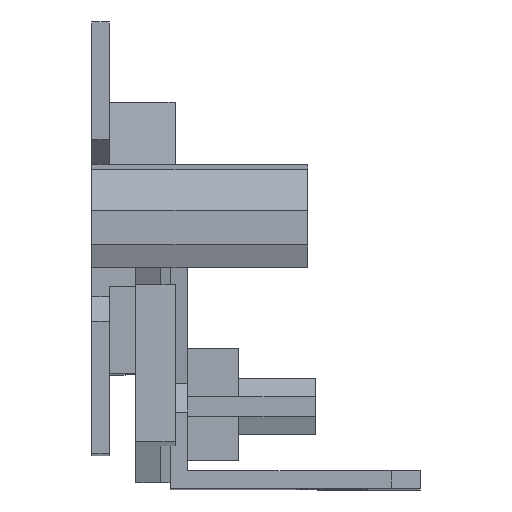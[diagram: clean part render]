
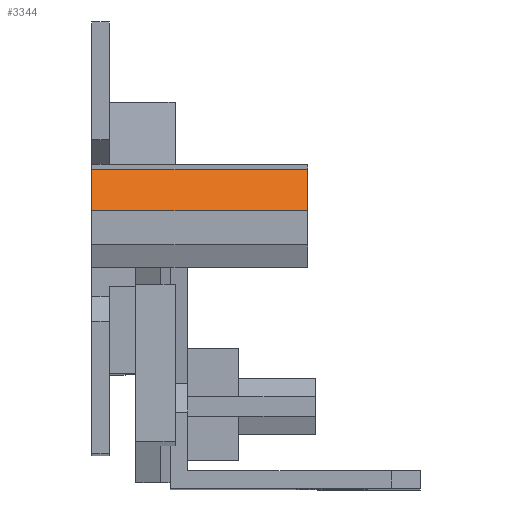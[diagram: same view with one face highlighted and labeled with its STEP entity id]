
A CAD part, top view. The second image highlights one B-rep face of the part: STEP entity #3344.
In plain terms, the highlighted planar face has unit normal (0, 0.433, 0.901).
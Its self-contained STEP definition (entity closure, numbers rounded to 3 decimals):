
#42 = EDGE_CURVE ( 'NONE', #759, #3523, #2261, .T. ) ;
#55 = CARTESIAN_POINT ( 'NONE',  ( 0., -6., 101. ) ) ;
#77 = DIRECTION ( 'NONE',  ( 0., -0.901, 0.433 ) ) ;
#124 = CARTESIAN_POINT ( 'NONE',  ( 22., -10.222, 103.03 ) ) ;
#127 = DIRECTION ( 'NONE',  ( -1., 0., 0. ) ) ;
#173 = EDGE_CURVE ( 'NONE', #759, #181, #2915, .T. ) ;
#181 = VERTEX_POINT ( 'NONE', #2352 ) ;
#210 = CARTESIAN_POINT ( 'NONE',  ( 0., -10.222, 103.03 ) ) ;
#234 = EDGE_LOOP ( 'NONE', ( #3770, #2714, #847, #1501 ) ) ;
#530 = CARTESIAN_POINT ( 'NONE',  ( 22., -6., 101. ) ) ;
#605 = EDGE_CURVE ( 'NONE', #181, #2243, #2999, .T. ) ;
#759 = VERTEX_POINT ( 'NONE', #530 ) ;
#847 = ORIENTED_EDGE ( 'NONE', *, *, #173, .F. ) ;
#1178 = DIRECTION ( 'NONE',  ( 0., 0.433, 0.901 ) ) ;
#1224 = PLANE ( 'NONE',  #3165 ) ;
#1241 = DIRECTION ( 'NONE',  ( 0., 0.901, -0.433 ) ) ;
#1493 = VECTOR ( 'NONE', #2407, 1000. ) ;
#1501 = ORIENTED_EDGE ( 'NONE', *, *, #42, .T. ) ;
#1620 = FACE_OUTER_BOUND ( 'NONE', #234, .T. ) ;
#1867 = VECTOR ( 'NONE', #3052, 1000. ) ;
#1899 = CARTESIAN_POINT ( 'NONE',  ( 22., -6., 101. ) ) ;
#1952 = CARTESIAN_POINT ( 'NONE',  ( 22., -6., 101. ) ) ;
#2243 = VERTEX_POINT ( 'NONE', #210 ) ;
#2261 = LINE ( 'NONE', #3007, #1867 ) ;
#2352 = CARTESIAN_POINT ( 'NONE',  ( 22., -10.222, 103.03 ) ) ;
#2407 = DIRECTION ( 'NONE',  ( 0., -0.901, 0.433 ) ) ;
#2570 = EDGE_CURVE ( 'NONE', #3523, #2243, #3124, .T. ) ;
#2714 = ORIENTED_EDGE ( 'NONE', *, *, #605, .F. ) ;
#2904 = VECTOR ( 'NONE', #127, 1000. ) ;
#2915 = LINE ( 'NONE', #1899, #1493 ) ;
#2981 = CARTESIAN_POINT ( 'NONE',  ( 0., -6., 101. ) ) ;
#2999 = LINE ( 'NONE', #124, #2904 ) ;
#3007 = CARTESIAN_POINT ( 'NONE',  ( 22., -6., 101. ) ) ;
#3052 = DIRECTION ( 'NONE',  ( -1., 0., 0. ) ) ;
#3089 = VECTOR ( 'NONE', #77, 1000. ) ;
#3124 = LINE ( 'NONE', #55, #3089 ) ;
#3165 = AXIS2_PLACEMENT_3D ( 'NONE', #1952, #1178, #1241 ) ;
#3344 = ADVANCED_FACE ( 'NONE', ( #1620 ), #1224, .T. ) ;
#3523 = VERTEX_POINT ( 'NONE', #2981 ) ;
#3770 = ORIENTED_EDGE ( 'NONE', *, *, #2570, .T. ) ;
